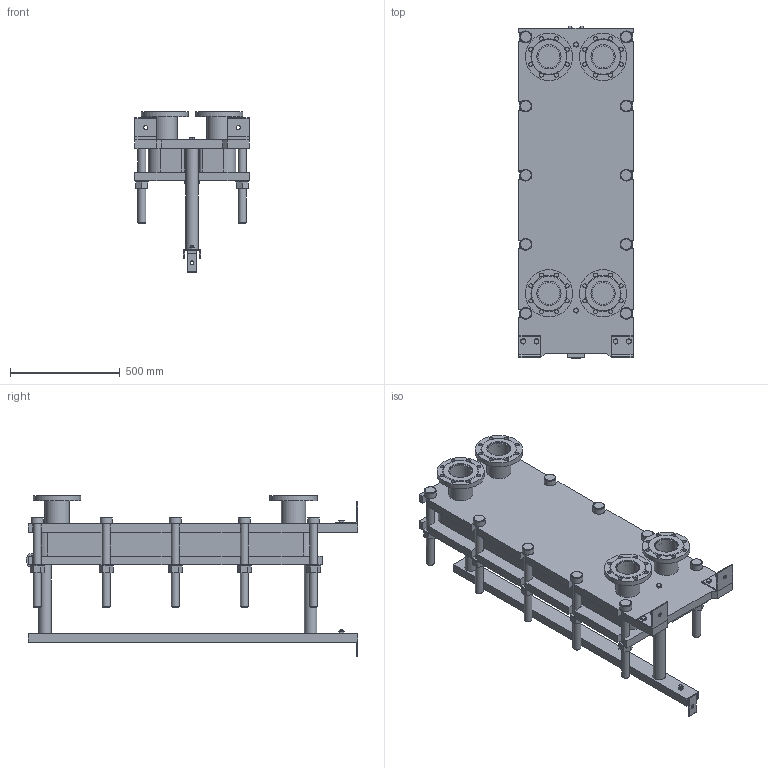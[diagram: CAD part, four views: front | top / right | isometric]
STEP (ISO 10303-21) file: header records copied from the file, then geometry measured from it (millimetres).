
FILE_DESCRIPTION(/* description */ (''),/* implementation_level */ '2;1');
FILE_NAME(/* name */ 'C:\Users\zhuro\Desktop\ENCO\TO\ЭН-04\ЭН-0,5-04-31-1.stp',/* time_stamp */ '2022-06-06T10:46:40+03:00',/* author */ ('zhuro'),/* organization */ (''),/* preprocessor_version */ 'ST-DEVELOPER v18.1',/* originating_system */ 'Autodesk Inventor 2022',/* authorisation */ '');
FILE_SCHEMA (('AUTOMOTIVE_DESIGN { 1 0 10303 214 3 1 1 }'));
Length unit declared in the file: millimetre
Products named in the file (1): ЭН-0,5-04-31-1
Bounding box: 520 x 1510 x 735.5 mm (x, y, z)
Volume: 120940380.4 mm3; surface area: 6837945.4 mm2
Topology: 45 solids, 45 shells, 668 faces, 1611 edges, 1048 vertices
Faces by surface type: plane 457, cylinder 166, cone 39, torus 6
Full cylindrical faces by diameter (mm): 8 x4, 10 x2, 16 x8, 18 x35, 36 x25, 40 x2, 42 x1, 45 x4, 54 x10, 57 x2, 60 x10, 68 x2, 100 x4, 110 x8, 215 x4
Entity records: 23607 total; most frequent: CARTESIAN_POINT 7348, DIRECTION 3371, ORIENTED_EDGE 3142, EDGE_CURVE 1571, AXIS2_PLACEMENT_3D 1199, VERTEX_POINT 1044, LINE 973, VECTOR 973
